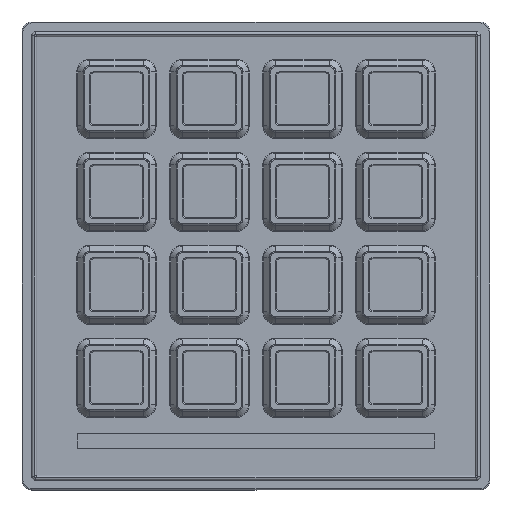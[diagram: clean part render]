
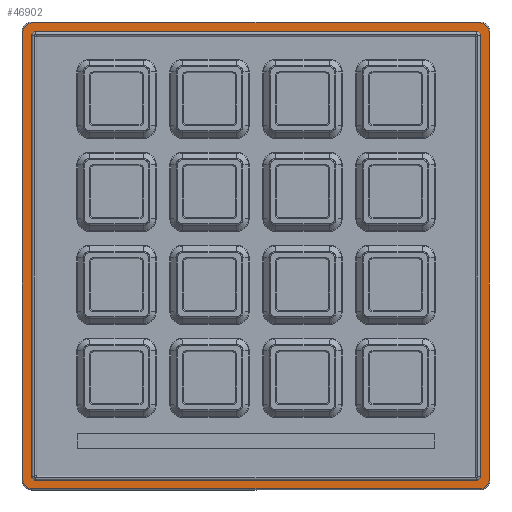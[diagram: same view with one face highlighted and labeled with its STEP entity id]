
A CAD part, top view. The second image highlights one B-rep face of the part: STEP entity #46902.
In plain terms, the highlighted planar face has unit normal (0, 0, 1).
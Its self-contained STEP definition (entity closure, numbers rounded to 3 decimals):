
#523 = CARTESIAN_POINT ( 'NONE',  ( 47.615, 42.31, -0.2 ) ) ;
#1988 = ORIENTED_EDGE ( 'NONE', *, *, #45254, .F. ) ;
#2221 = CARTESIAN_POINT ( 'NONE',  ( -47.615, -49.316, -0.2 ) ) ;
#2468 = CARTESIAN_POINT ( 'NONE',  ( -45.815, 42.309, -0.2 ) ) ;
#2980 = DIRECTION ( 'NONE',  ( 0., 0., 1. ) ) ;
#3291 = CARTESIAN_POINT ( 'NONE',  ( -45.815, 42.309, -0.2 ) ) ;
#3545 = EDGE_LOOP ( 'NONE', ( #37318, #6076, #36104, #27933, #27864, #7319, #10029, #31869 ) ) ;
#3723 = LINE ( 'NONE', #10344, #35913 ) ;
#3798 = CIRCLE ( 'NONE', #25753, 1.8 ) ;
#4198 = EDGE_CURVE ( 'NONE', #11481, #36423, #3723, .T. ) ;
#4479 = CIRCLE ( 'NONE', #6311, 1.8 ) ;
#5371 = VERTEX_POINT ( 'NONE', #30279 ) ;
#5648 = DIRECTION ( 'NONE',  ( 0., 0., 1. ) ) ;
#5962 = VERTEX_POINT ( 'NONE', #23825 ) ;
#6076 = ORIENTED_EDGE ( 'NONE', *, *, #21146, .T. ) ;
#6311 = AXIS2_PLACEMENT_3D ( 'NONE', #14235, #2980, #49342 ) ;
#6533 = VERTEX_POINT ( 'NONE', #523 ) ;
#6550 = EDGE_CURVE ( 'NONE', #5371, #6533, #23674, .T. ) ;
#6707 = CIRCLE ( 'NONE', #36546, 0.751 ) ;
#6811 = AXIS2_PLACEMENT_3D ( 'NONE', #36387, #32520, #44186 ) ;
#7319 = ORIENTED_EDGE ( 'NONE', *, *, #18176, .T. ) ;
#8436 = EDGE_CURVE ( 'NONE', #41216, #5371, #35617, .T. ) ;
#9123 = VERTEX_POINT ( 'NONE', #17343 ) ;
#9305 = CARTESIAN_POINT ( 'NONE',  ( -45.815, -51.116, -0.2 ) ) ;
#9562 = DIRECTION ( 'NONE',  ( -1., 0., 0. ) ) ;
#9906 = CARTESIAN_POINT ( 'NONE',  ( 45.064, -48.565, -0.2 ) ) ;
#10029 = ORIENTED_EDGE ( 'NONE', *, *, #46403, .T. ) ;
#10344 = CARTESIAN_POINT ( 'NONE',  ( -45.815, 41.559, -0.2 ) ) ;
#10739 = CARTESIAN_POINT ( 'NONE',  ( 45.815, 41.559, -0.2 ) ) ;
#10992 = ORIENTED_EDGE ( 'NONE', *, *, #24966, .F. ) ;
#11201 = CARTESIAN_POINT ( 'NONE',  ( 45.815, -51.116, -0.2 ) ) ;
#11247 = CARTESIAN_POINT ( 'NONE',  ( 45.064, 41.559, -0.2 ) ) ;
#11426 = DIRECTION ( 'NONE',  ( 0., 1., 0. ) ) ;
#11481 = VERTEX_POINT ( 'NONE', #31249 ) ;
#12048 = ORIENTED_EDGE ( 'NONE', *, *, #36484, .F. ) ;
#12201 = LINE ( 'NONE', #38540, #44396 ) ;
#12882 = EDGE_CURVE ( 'NONE', #5962, #22469, #50349, .T. ) ;
#13324 = LINE ( 'NONE', #30564, #17567 ) ;
#13580 = LINE ( 'NONE', #44685, #48190 ) ;
#14235 = CARTESIAN_POINT ( 'NONE',  ( 45.815, 42.31, -0.2 ) ) ;
#14995 = DIRECTION ( 'NONE',  ( 0., 0., 1. ) ) ;
#15422 = CIRCLE ( 'NONE', #16992, 0.751 ) ;
#15932 = AXIS2_PLACEMENT_3D ( 'NONE', #9906, #5648, #25344 ) ;
#16294 = FACE_BOUND ( 'NONE', #25976, .T. ) ;
#16992 = AXIS2_PLACEMENT_3D ( 'NONE', #11247, #26714, #49609 ) ;
#17343 = CARTESIAN_POINT ( 'NONE',  ( 45.815, 44.109, -0.2 ) ) ;
#17360 = DIRECTION ( 'NONE',  ( 0., -1., 0. ) ) ;
#17567 = VECTOR ( 'NONE', #18658, 1000. ) ;
#18012 = VERTEX_POINT ( 'NONE', #39724 ) ;
#18160 = VERTEX_POINT ( 'NONE', #9305 ) ;
#18176 = EDGE_CURVE ( 'NONE', #6533, #9123, #4479, .T. ) ;
#18309 = DIRECTION ( 'NONE',  ( 0., 0., 1. ) ) ;
#18557 = VERTEX_POINT ( 'NONE', #44889 ) ;
#18658 = DIRECTION ( 'NONE',  ( -1., 0., 0. ) ) ;
#18702 = DIRECTION ( 'NONE',  ( 0., -1., 0. ) ) ;
#20010 = VERTEX_POINT ( 'NONE', #32873 ) ;
#20803 = CIRCLE ( 'NONE', #22216, 1.8 ) ;
#21003 = EDGE_CURVE ( 'NONE', #20010, #11481, #40852, .T. ) ;
#21146 = EDGE_CURVE ( 'NONE', #40086, #18160, #3798, .T. ) ;
#21949 = CARTESIAN_POINT ( 'NONE',  ( -45.815, -49.316, -0.2 ) ) ;
#22120 = EDGE_CURVE ( 'NONE', #36571, #41310, #20803, .T. ) ;
#22134 = ORIENTED_EDGE ( 'NONE', *, *, #31077, .F. ) ;
#22216 = AXIS2_PLACEMENT_3D ( 'NONE', #2468, #36986, #29700 ) ;
#22450 = DIRECTION ( 'NONE',  ( 0., 1., 0. ) ) ;
#22469 = VERTEX_POINT ( 'NONE', #35736 ) ;
#23065 = VECTOR ( 'NONE', #26728, 1000. ) ;
#23254 = ORIENTED_EDGE ( 'NONE', *, *, #43165, .F. ) ;
#23674 = LINE ( 'NONE', #46052, #29816 ) ;
#23825 = CARTESIAN_POINT ( 'NONE',  ( -45.064, -49.316, -0.2 ) ) ;
#24966 = EDGE_CURVE ( 'NONE', #41113, #20010, #13580, .T. ) ;
#25344 = DIRECTION ( 'NONE',  ( 0., -1., 0. ) ) ;
#25642 = ORIENTED_EDGE ( 'NONE', *, *, #21003, .F. ) ;
#25753 = AXIS2_PLACEMENT_3D ( 'NONE', #21949, #30446, #18702 ) ;
#25976 = EDGE_LOOP ( 'NONE', ( #25642, #10992, #1988, #22134, #12048, #48744, #23254, #50108 ) ) ;
#25998 = EDGE_CURVE ( 'NONE', #41310, #40086, #40623, .T. ) ;
#26081 = DIRECTION ( 'NONE',  ( 0., 1., 0. ) ) ;
#26714 = DIRECTION ( 'NONE',  ( 0., 0., 1. ) ) ;
#26728 = DIRECTION ( 'NONE',  ( 1., 0., 0. ) ) ;
#27864 = ORIENTED_EDGE ( 'NONE', *, *, #6550, .T. ) ;
#27933 = ORIENTED_EDGE ( 'NONE', *, *, #8436, .T. ) ;
#28608 = CARTESIAN_POINT ( 'NONE',  ( -45.815, -48.565, -0.2 ) ) ;
#29700 = DIRECTION ( 'NONE',  ( 0., -1., 0. ) ) ;
#29816 = VECTOR ( 'NONE', #11426, 1000. ) ;
#30279 = CARTESIAN_POINT ( 'NONE',  ( 47.615, -49.316, -0.2 ) ) ;
#30335 = DIRECTION ( 'NONE',  ( 0., -1., 0. ) ) ;
#30446 = DIRECTION ( 'NONE',  ( 0., 0., 1. ) ) ;
#30564 = CARTESIAN_POINT ( 'NONE',  ( -45.815, 44.109, -0.2 ) ) ;
#31077 = EDGE_CURVE ( 'NONE', #18557, #18012, #33547, .T. ) ;
#31249 = CARTESIAN_POINT ( 'NONE',  ( -45.815, 41.559, -0.2 ) ) ;
#31869 = ORIENTED_EDGE ( 'NONE', *, *, #22120, .T. ) ;
#32520 = DIRECTION ( 'NONE',  ( 0., 0., 1. ) ) ;
#32873 = CARTESIAN_POINT ( 'NONE',  ( -45.064, 42.31, -0.2 ) ) ;
#33547 = LINE ( 'NONE', #10739, #38983 ) ;
#33937 = DIRECTION ( 'NONE',  ( 0., -1., 0. ) ) ;
#34173 = EDGE_CURVE ( 'NONE', #18160, #41216, #12201, .T. ) ;
#35307 = CARTESIAN_POINT ( 'NONE',  ( -47.615, 42.309, -0.2 ) ) ;
#35617 = CIRCLE ( 'NONE', #46732, 1.8 ) ;
#35736 = CARTESIAN_POINT ( 'NONE',  ( 45.064, -49.316, -0.2 ) ) ;
#35913 = VECTOR ( 'NONE', #37184, 1000. ) ;
#36104 = ORIENTED_EDGE ( 'NONE', *, *, #34173, .T. ) ;
#36387 = CARTESIAN_POINT ( 'NONE',  ( -45.064, 41.559, -0.2 ) ) ;
#36423 = VERTEX_POINT ( 'NONE', #28608 ) ;
#36484 = EDGE_CURVE ( 'NONE', #22469, #18557, #37337, .T. ) ;
#36546 = AXIS2_PLACEMENT_3D ( 'NONE', #41676, #14995, #26081 ) ;
#36571 = VERTEX_POINT ( 'NONE', #48588 ) ;
#36986 = DIRECTION ( 'NONE',  ( 0., 0., 1. ) ) ;
#37184 = DIRECTION ( 'NONE',  ( 0., -1., 0. ) ) ;
#37318 = ORIENTED_EDGE ( 'NONE', *, *, #25998, .T. ) ;
#37337 = CIRCLE ( 'NONE', #15932, 0.751 ) ;
#38540 = CARTESIAN_POINT ( 'NONE',  ( 45.815, -51.116, -0.2 ) ) ;
#38623 = CARTESIAN_POINT ( 'NONE',  ( -45.064, -49.316, -0.2 ) ) ;
#38691 = DIRECTION ( 'NONE',  ( 1., 0., 0. ) ) ;
#38983 = VECTOR ( 'NONE', #22450, 1000. ) ;
#39243 = AXIS2_PLACEMENT_3D ( 'NONE', #3291, #49632, #30335 ) ;
#39724 = CARTESIAN_POINT ( 'NONE',  ( 45.815, 41.559, -0.2 ) ) ;
#40086 = VERTEX_POINT ( 'NONE', #45337 ) ;
#40623 = LINE ( 'NONE', #2221, #44252 ) ;
#40852 = CIRCLE ( 'NONE', #6811, 0.751 ) ;
#41113 = VERTEX_POINT ( 'NONE', #41299 ) ;
#41216 = VERTEX_POINT ( 'NONE', #11201 ) ;
#41299 = CARTESIAN_POINT ( 'NONE',  ( 45.064, 42.31, -0.2 ) ) ;
#41310 = VERTEX_POINT ( 'NONE', #35307 ) ;
#41676 = CARTESIAN_POINT ( 'NONE',  ( -45.064, -48.565, -0.2 ) ) ;
#43165 = EDGE_CURVE ( 'NONE', #36423, #5962, #6707, .T. ) ;
#44186 = DIRECTION ( 'NONE',  ( 0., -1., 0. ) ) ;
#44252 = VECTOR ( 'NONE', #17360, 1000. ) ;
#44396 = VECTOR ( 'NONE', #38691, 1000. ) ;
#44685 = CARTESIAN_POINT ( 'NONE',  ( -45.064, 42.31, -0.2 ) ) ;
#44889 = CARTESIAN_POINT ( 'NONE',  ( 45.815, -48.565, -0.2 ) ) ;
#44967 = CARTESIAN_POINT ( 'NONE',  ( 45.815, -49.316, -0.2 ) ) ;
#45254 = EDGE_CURVE ( 'NONE', #18012, #41113, #15422, .T. ) ;
#45337 = CARTESIAN_POINT ( 'NONE',  ( -47.615, -49.316, -0.2 ) ) ;
#46052 = CARTESIAN_POINT ( 'NONE',  ( 47.615, 42.31, -0.2 ) ) ;
#46403 = EDGE_CURVE ( 'NONE', #9123, #36571, #13324, .T. ) ;
#46732 = AXIS2_PLACEMENT_3D ( 'NONE', #44967, #18309, #33937 ) ;
#46902 = ADVANCED_FACE ( 'NONE', ( #49699, #16294 ), #49480, .F. ) ;
#48190 = VECTOR ( 'NONE', #9562, 1000. ) ;
#48588 = CARTESIAN_POINT ( 'NONE',  ( -45.815, 44.109, -0.2 ) ) ;
#48744 = ORIENTED_EDGE ( 'NONE', *, *, #12882, .F. ) ;
#49342 = DIRECTION ( 'NONE',  ( 0., -1., 0. ) ) ;
#49480 = PLANE ( 'NONE',  #39243 ) ;
#49609 = DIRECTION ( 'NONE',  ( 0., -1., 0. ) ) ;
#49632 = DIRECTION ( 'NONE',  ( 0., 0., -1. ) ) ;
#49699 = FACE_OUTER_BOUND ( 'NONE', #3545, .T. ) ;
#50108 = ORIENTED_EDGE ( 'NONE', *, *, #4198, .F. ) ;
#50349 = LINE ( 'NONE', #38623, #23065 ) ;
